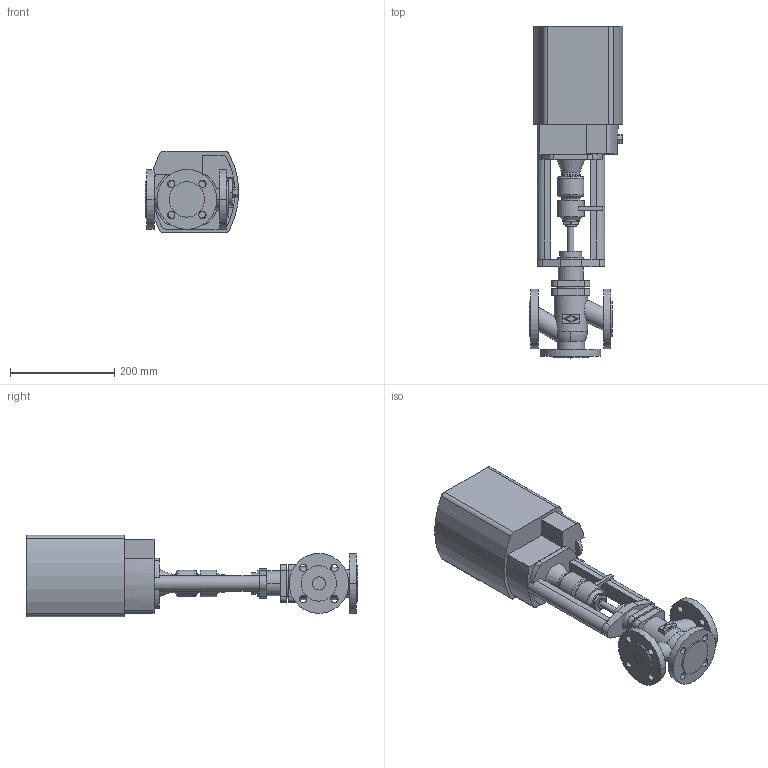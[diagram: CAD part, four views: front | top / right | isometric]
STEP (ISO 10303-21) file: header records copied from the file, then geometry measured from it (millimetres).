
FILE_DESCRIPTION( ( '' ), '1' );
FILE_NAME( 'F:/DE-SHS/TB/OR/04-Sonstiges/daten/files_3d/450-PREMIO-Plus-2G/c000006508.stp', '2017-02-22T12:47:51', ( '' ), ( '' ), ' ', ' ', ' ' );
FILE_SCHEMA( ( 'CONFIG_CONTROL_DESIGN' ) );
Length unit declared in the file: millimetre
Products named in the file (2): 1; 2
Bounding box: 179.7 x 638 x 156 mm (x, y, z)
Volume: 7301030.4 mm3; surface area: 408958.4 mm2
Topology: 2 solids, 2 shells, 244 faces, 628 edges, 416 vertices
Faces by surface type: cylinder 114, plane 112, torus 10, cone 8
Entity records: 7969 total; most frequent: CARTESIAN_POINT 1597, DIRECTION 1407, ORIENTED_EDGE 1256, EDGE_CURVE 628, AXIS2_PLACEMENT_3D 542, VERTEX_POINT 416, LINE 323, VECTOR 323
